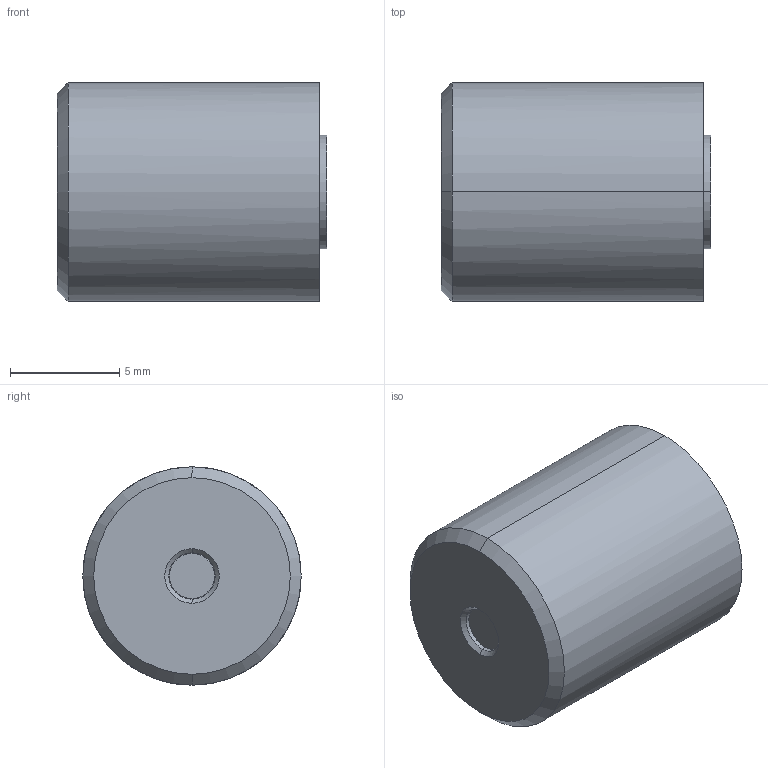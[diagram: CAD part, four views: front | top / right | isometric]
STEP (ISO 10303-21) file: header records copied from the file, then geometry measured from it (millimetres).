
FILE_DESCRIPTION(('CATIA V5 STEP Exchange'),'2;1');
FILE_NAME('C:\Users\Utente\Desktop\IO LAVORO\3D X SITO CF\X SITO\PLASTICA\D374\D374-10-A-DM-FA.stp','2021-03-30T10:34:20+00:00',('none'),('none'),'CATIA Version 5 Release 20 GA (IN-10)','CATIA V5 STEP AP203','none');
FILE_SCHEMA(('CONFIG_CONTROL_DESIGN'));
Length unit declared in the file: millimetre
Products named in the file (1): D374-10-A-DM-FA
Assembly tree (2 placements, depth 2):
  D374-10-A-DM-FA
    #58
    #6654
Bounding box: 12.35 x 10 x 10 mm (x, y, z)
Volume: 830 mm3; surface area: 872.1 mm2
Topology: 2 solids, 2 shells, 222 faces, 612 edges, 420 vertices
Faces by surface type: plane 137, cylinder 77, cone 8
Entity records: 7725 total; most frequent: CARTESIAN_POINT 2094, ORIENTED_EDGE 1224, DIRECTION 982, EDGE_CURVE 612, VERTEX_POINT 420, VECTOR 406, LINE 406, AXIS2_PLACEMENT_3D 351
